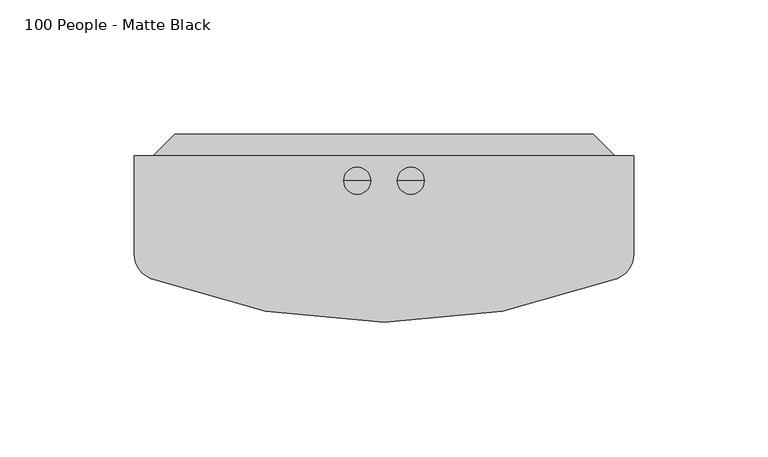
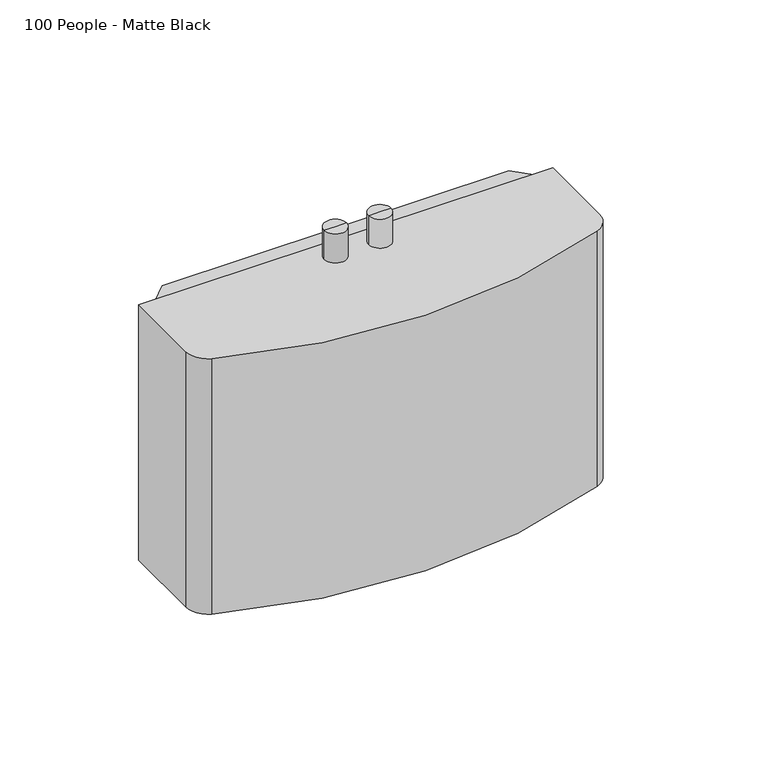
"""IFC4 building model written with IfcOpenShell, lengths in millimetres: flow terminal geometry, 100 People - Matte Black."""

from ifc_helpers import new_model, si_unit, point, frame, frame_2d, origin, place, context, project, spatial, polyline, circle_curve, trimmed, segment, composite_curve, outline, extrude, source, transform, mapped, element, save
from ifc_brep_helpers import plane_surface, cylinder_surface, advanced_brep


def flow_terminal_100_people_matte_black_0dc622b1(model_context):
    return source(origin(), model_context, "Body", "SolidModel", [
        advanced_brep(
        [(-9.0, 248.188161, 633.0), (-14.0, 248.188161, 633.0), (-4.0, 248.188161, 633.0), (-4.0, 248.188161, 619.25), (-14.0, 248.188161, 619.25), (-9.0, 248.188161, 619.25)],
        [
            (0, 1),
            (1, 2, circle_curve(frame((-9.0, 248.188161, 633.0), z_axis=(0.0, 0.0, 1.0), x_axis=(-1.0, 0.0, 0.0)), 5.0)),
            (2, 0),
            (2, 1, circle_curve(frame((-9.0, 248.188161, 633.0), z_axis=(0.0, 0.0, 1.0), x_axis=(-1.0, 0.0, 0.0)), 5.0)),
            (3, 4, circle_curve(frame((-9.0, 248.188161, 619.25), z_axis=(0.0, 0.0, -1.0), x_axis=(-1.0, 0.0, 0.0)), 5.0)),
            (4, 5),
            (5, 3),
            (4, 3, circle_curve(frame((-9.0, 248.188161, 619.25), z_axis=(0.0, 0.0, -1.0), x_axis=(-1.0, 0.0, 0.0)), 5.0)),
            (1, 4),
            (3, 2),
        ],
        [
            plane_surface(frame((-9.0, 248.188161, 633.0), z_axis=(0.0, 0.0, 1.0), x_axis=(-1.0, 0.0, 0.0))),
            plane_surface(frame((-9.0, 248.188161, 619.25), z_axis=(0.0, 0.0, -1.0), x_axis=(-1.0, 0.0, 0.0))),
            cylinder_surface(frame((-9.0, 248.188161, 621.734876), z_axis=(0.0, 0.0, 1.0), x_axis=(-1.0, 0.0, 0.0)), 5.0),
        ],
        [
            (0, [[1, 2, 3]]),
            (0, [[-3, 4, -1]]),
            (1, [[5, 6, 7]]),
            (1, [[8, -7, -6]]),
            (2, [[-2, 9, -5, 10]]),
            (2, [[-4, -10, -8, -9]]),
        ],
    ),
        advanced_brep(
        [(6.0, 248.188161, 633.0), (16.0, 248.188161, 633.0), (11.0, 248.188161, 633.0), (11.0, 248.188161, 619.25), (16.0, 248.188161, 619.25), (6.0, 248.188161, 619.25)],
        [
            (0, 1, circle_curve(frame((11.0, 248.188161, 633.0), z_axis=(0.0, 0.0, 1.0), x_axis=(1.0, 0.0, 0.0)), 5.0)),
            (1, 2),
            (2, 0),
            (1, 0, circle_curve(frame((11.0, 248.188161, 633.0), z_axis=(0.0, 0.0, 1.0), x_axis=(1.0, 0.0, 0.0)), 5.0)),
            (3, 4),
            (4, 5, circle_curve(frame((11.0, 248.188161, 619.25), z_axis=(0.0, 0.0, -1.0), x_axis=(1.0, 0.0, 0.0)), 5.0)),
            (5, 3),
            (5, 4, circle_curve(frame((11.0, 248.188161, 619.25), z_axis=(0.0, 0.0, -1.0), x_axis=(1.0, 0.0, 0.0)), 5.0)),
            (4, 1),
            (0, 5),
        ],
        [
            plane_surface(frame((11.0, 248.188161, 633.0), z_axis=(0.0, 0.0, 1.0), x_axis=(1.0, 0.0, 0.0))),
            plane_surface(frame((11.0, 248.188161, 619.25), z_axis=(0.0, 0.0, -1.0), x_axis=(1.0, 0.0, 0.0))),
            cylinder_surface(frame((11.0, 248.188161, 621.734876), z_axis=(0.0, 0.0, -1.0), x_axis=(1.0, 0.0, 0.0)), 5.0),
        ],
        [
            (0, [[1, 2, 3]]),
            (0, [[4, -3, -2]]),
            (1, [[5, 6, 7]]),
            (1, [[-7, 8, -5]]),
            (2, [[-6, 9, -1, 10]]),
            (2, [[-8, -10, -4, -9]]),
        ],
    ),
        extrude(outline(polyline([(78.9446111, 265.5), (86.9446111, 257.5), (-84.9446111, 257.5), (-76.9446111, 265.5), (78.9446111, 265.5)])), frame((0.0, 0.0, 499.0), z_axis=(0.0, 0.0, 1.0), x_axis=(1.0, 0.0, 0.0)), (0.0, 0.0, 1.0), 119.25),
        extrude(outline(composite_curve([segment(polyline([(-92.0, 257.5), (94.0, 257.5), (94.0, 221.0019385)]), True, "CONTINUOUS"), segment(trimmed(circle_curve(frame_2d((84.0, 221.0019385)), 10.0), [point((94.0, 221.0019385))], [point((87.6094962, 211.6760854))], False, "CARTESIAN"), True, "CONTINUOUS"), segment(trimmed(circle_curve(frame_2d((1.0, 435.4489865)), 239.9489865), [point((87.6094962, 211.6760854))], [point((-85.6094962, 211.6760854))], False, "CARTESIAN"), True, "CONTINUOUS"), segment(trimmed(circle_curve(frame_2d((-82.0, 221.0019385)), 10.0), [point((-85.6094962, 211.6760854))], [point((-92.0, 221.0019385))], False, "CARTESIAN"), True, "CONTINUOUS"), segment(polyline([(-92.0, 221.0019385), (-92.0, 257.5)]), True, "CONTINUOUS")], self_intersect=False)), frame((0.0, 0.0, 498.0), z_axis=(0.0, 0.0, 1.0), x_axis=(1.0, 0.0, 0.0)), (0.0, 0.0, 1.0), 121.25),
    ])


if __name__ == "__main__":
    model = new_model("IFC4")
    model_context = context("Model", 3, world=origin())
    ifc_project = project(units=[si_unit("LENGTHUNIT", "METRE", prefix="MILLI")], contexts=[model_context])
    site = spatial("IfcSite", under=ifc_project)
    building = spatial("IfcBuilding", under=site)
    placement = place(None, origin())
    flow_terminal_100_people_matte_black_shape = flow_terminal_100_people_matte_black_0dc622b1(model_context)
    element("IfcFlowTerminal", 1, ObjectType="100 People - Matte Black", at=placement, inside=building, context=model_context, shape_type="MappedRepresentation", body=[
        mapped(flow_terminal_100_people_matte_black_shape, transform((0.0, 0.0, 0.0), x_axis=(1.0, 0.0, 0.0), y_axis=(0.0, 1.0, 0.0), z_axis=(0.0, 0.0, 1.0))),
    ])
    save(model, "model.ifc")
